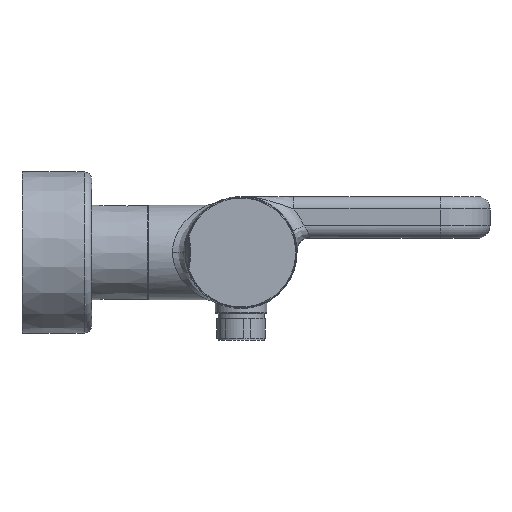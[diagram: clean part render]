
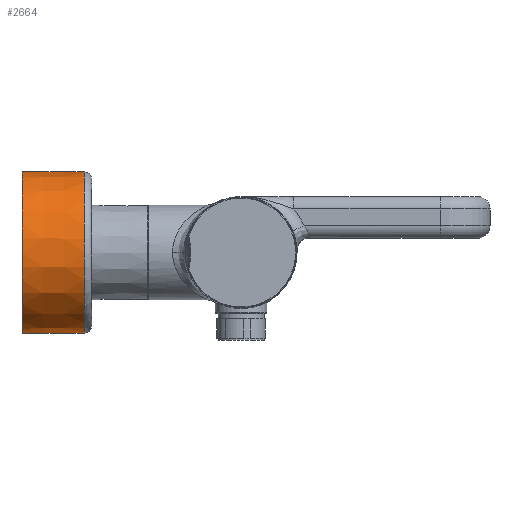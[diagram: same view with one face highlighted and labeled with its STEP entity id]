
A CAD part, left-side view. The second image highlights one B-rep face of the part: STEP entity #2664.
In plain terms, the highlighted conical face has half-angle 0.3 degrees and reference radius 32.434 mm.
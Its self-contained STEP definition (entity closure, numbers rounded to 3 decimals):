
#226=CONICAL_SURFACE('',#2986,32.435,0.005);
#434=FACE_OUTER_BOUND('',#618,.T.);
#618=EDGE_LOOP('',(#2196,#2197,#2198,#2199,#2200));
#767=LINE('',#9717,#903);
#903=VECTOR('',#3566,32.435);
#1071=CIRCLE('',#2985,32.5);
#1072=CIRCLE('',#2987,32.369);
#1073=CIRCLE('',#2988,32.369);
#1284=VERTEX_POINT('',#9713);
#1285=VERTEX_POINT('',#9716);
#1286=VERTEX_POINT('',#9718);
#1622=EDGE_CURVE('',#1284,#1284,#1071,.T.);
#1623=EDGE_CURVE('',#1284,#1285,#767,.T.);
#1624=EDGE_CURVE('',#1285,#1286,#1072,.T.);
#1625=EDGE_CURVE('',#1286,#1285,#1073,.T.);
#2196=ORIENTED_EDGE('',*,*,#1622,.F.);
#2197=ORIENTED_EDGE('',*,*,#1623,.T.);
#2198=ORIENTED_EDGE('',*,*,#1624,.T.);
#2199=ORIENTED_EDGE('',*,*,#1625,.T.);
#2200=ORIENTED_EDGE('',*,*,#1623,.F.);
#2664=ADVANCED_FACE('',(#434),#226,.T.);
#2985=AXIS2_PLACEMENT_3D('',#9714,#3562,#3563);
#2986=AXIS2_PLACEMENT_3D('',#9715,#3564,#3565);
#2987=AXIS2_PLACEMENT_3D('',#9719,#3567,#3568);
#2988=AXIS2_PLACEMENT_3D('',#9720,#3569,#3570);
#3562=DIRECTION('center_axis',(0.,1.,0.));
#3563=DIRECTION('ref_axis',(0.,0.,1.));
#3564=DIRECTION('center_axis',(0.,1.,0.));
#3565=DIRECTION('ref_axis',(0.,0.,1.));
#3566=DIRECTION('',(0.,-1.,0.005));
#3567=DIRECTION('center_axis',(0.,1.,0.));
#3568=DIRECTION('ref_axis',(0.,0.,1.));
#3569=DIRECTION('center_axis',(0.,1.,0.));
#3570=DIRECTION('ref_axis',(0.,0.,1.));
#9713=CARTESIAN_POINT('',(-75.,43.702,-7.802));
#9714=CARTESIAN_POINT('Origin',(-75.,43.702,24.698));
#9715=CARTESIAN_POINT('Origin',(-75.,31.194,24.698));
#9716=CARTESIAN_POINT('',(-75.,18.686,-7.671));
#9717=CARTESIAN_POINT('',(-75.,31.194,-7.736));
#9718=CARTESIAN_POINT('',(-74.845,18.686,-7.67));
#9719=CARTESIAN_POINT('Origin',(-75.,18.686,24.698));
#9720=CARTESIAN_POINT('Origin',(-75.,18.686,24.698));
